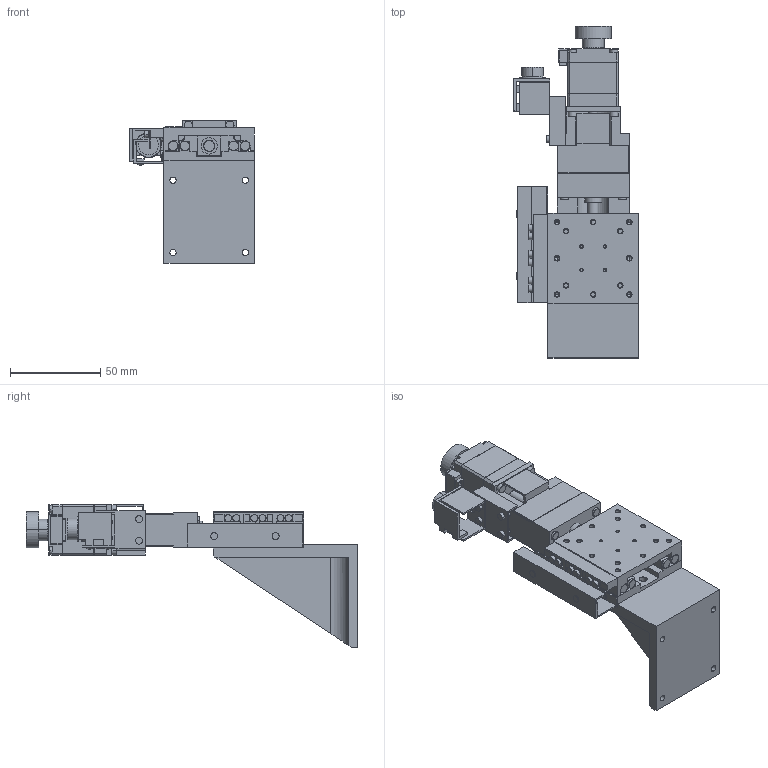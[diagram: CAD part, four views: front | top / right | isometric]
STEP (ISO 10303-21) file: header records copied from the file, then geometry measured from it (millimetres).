
FILE_DESCRIPTION(('STEP AP203'),'1');
FILE_NAME('C:/3D-Trans/3D_PZG513M-L□-E4+240125.step','2024-03-14T06:15:49',(' '),(' '),'Spatial InterOp 3D',' ',' ');
FILE_SCHEMA(('CONFIG_CONTROL_DESIGN'));
Length unit declared in the file: millimetre
Products named in the file (7): 1; 2; 3; 4; 5; 6; 7
Bounding box: 69 x 183.5 x 79 mm (x, y, z)
Volume: 157486.7 mm3; surface area: 69757.5 mm2
Topology: 7 solids, 7 shells, 821 faces, 2130 edges, 1356 vertices
Faces by surface type: plane 476, cylinder 265, cone 76, sphere 4
Entity records: 25482 total; most frequent: CARTESIAN_POINT 4510, DIRECTION 4416, ORIENTED_EDGE 4212, EDGE_CURVE 2106, AXIS2_PLACEMENT_3D 1498, LINE 1420, VECTOR 1420, VERTEX_POINT 1356
